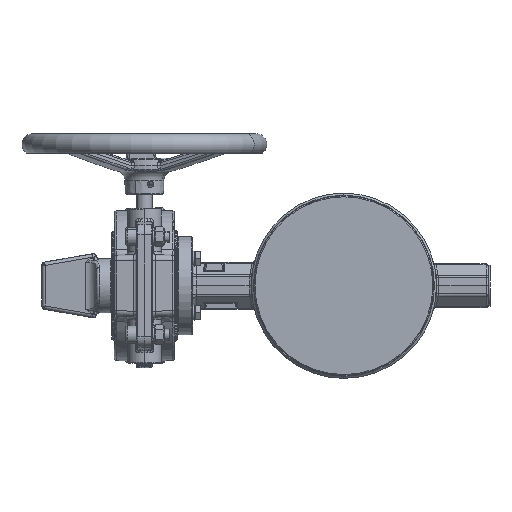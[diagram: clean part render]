
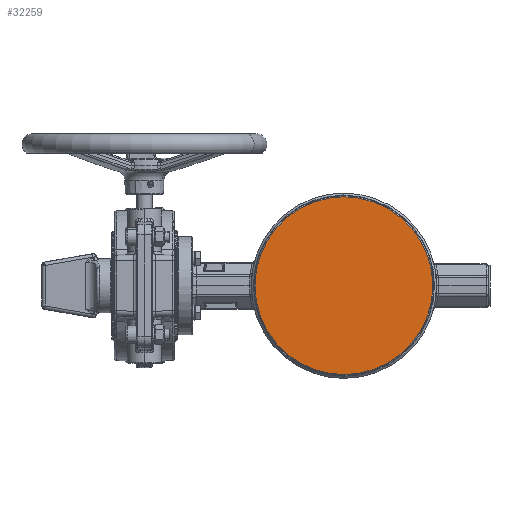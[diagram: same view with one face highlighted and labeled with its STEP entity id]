
A CAD part, left-side view. The second image highlights one B-rep face of the part: STEP entity #32259.
In plain terms, the highlighted planar face has unit normal (-1, 0, 0).
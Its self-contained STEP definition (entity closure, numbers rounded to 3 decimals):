
#2733 = DIRECTION ( 'NONE',  ( 1., 0., 0. ) ) ;
#9243 = FACE_OUTER_BOUND ( 'NONE', #9927, .T. ) ;
#9927 = EDGE_LOOP ( 'NONE', ( #14372, #56250 ) ) ;
#14372 = ORIENTED_EDGE ( 'NONE', *, *, #27786, .T. ) ;
#23759 = AXIS2_PLACEMENT_3D ( 'NONE', #31900, #89055, #41516 ) ;
#27786 = EDGE_CURVE ( 'NONE', #116557, #102021, #120996, .T. ) ;
#31900 = CARTESIAN_POINT ( 'NONE',  ( -74., 0., 0. ) ) ;
#32259 = ADVANCED_FACE ( 'NONE', ( #9243 ), #49367, .F. ) ;
#32658 = CARTESIAN_POINT ( 'NONE',  ( -74., 0., -81.55 ) ) ;
#41516 = DIRECTION ( 'NONE',  ( 0., 0., -1. ) ) ;
#49367 = PLANE ( 'NONE',  #118910 ) ;
#56250 = ORIENTED_EDGE ( 'NONE', *, *, #67363, .T. ) ;
#67363 = EDGE_CURVE ( 'NONE', #102021, #116557, #90679, .T. ) ;
#68974 = CARTESIAN_POINT ( 'NONE',  ( -74., 0., 81.55 ) ) ;
#69100 = CARTESIAN_POINT ( 'NONE',  ( -74., 85., 0. ) ) ;
#71216 = DIRECTION ( 'NONE',  ( -1., 0., 0. ) ) ;
#80893 = DIRECTION ( 'NONE',  ( 0., 0., -1. ) ) ;
#89055 = DIRECTION ( 'NONE',  ( -1., 0., 0. ) ) ;
#90679 = CIRCLE ( 'NONE', #114073, 81.55 ) ;
#97294 = DIRECTION ( 'NONE',  ( 0., 1., 0. ) ) ;
#100233 = CARTESIAN_POINT ( 'NONE',  ( -74., 0., 0. ) ) ;
#102021 = VERTEX_POINT ( 'NONE', #68974 ) ;
#114073 = AXIS2_PLACEMENT_3D ( 'NONE', #100233, #71216, #80893 ) ;
#116557 = VERTEX_POINT ( 'NONE', #32658 ) ;
#118910 = AXIS2_PLACEMENT_3D ( 'NONE', #69100, #2733, #97294 ) ;
#120996 = CIRCLE ( 'NONE', #23759, 81.55 ) ;
